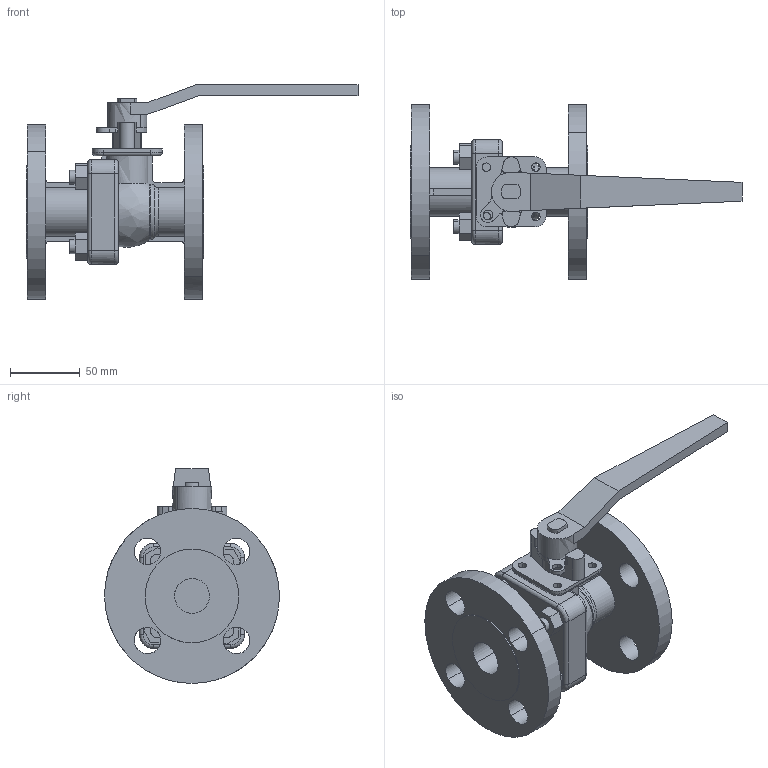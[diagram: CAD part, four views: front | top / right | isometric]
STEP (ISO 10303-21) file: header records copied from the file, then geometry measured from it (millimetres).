
FILE_DESCRIPTION((''),'2;1');
FILE_NAME('','2022-03-23T15:30:56',(''),(''),'','CADfix','');
FILE_SCHEMA(('AUTOMOTIVE_DESIGN { 1 0 10303 214 1 1 1 1 }'));
Length unit declared in the file: millimetre
Products named in the file (2): BLV-2SFJ 25A; BLV-2SF JIS 10K 25A_38
Assembly tree (1 placements, depth 2):
  BLV-2SF JIS 10K 25A_38
    BLV-2SFJ 25A
Bounding box: 237.3 x 125 x 153.5 mm (x, y, z)
Volume: 544466 mm3; surface area: 113109.8 mm2
Topology: 1 solids, 1 shells, 217 faces, 772 edges, 572 vertices
Faces by surface type: bspline 217
Entity records: 11290 total; most frequent: CARTESIAN_POINT 6188, ORIENTED_EDGE 1544, EDGE_CURVE 772, STYLED_ITEM 626, VERTEX_POINT 572, B_SPLINE_CURVE_WITH_KNOTS 367, QUASI_UNIFORM_CURVE 320, EDGE_LOOP 262
